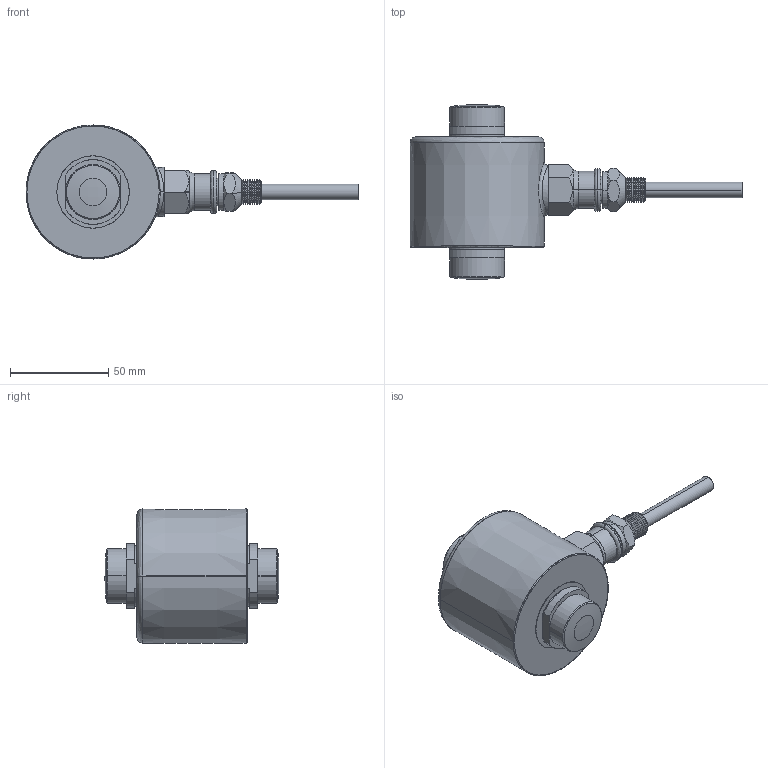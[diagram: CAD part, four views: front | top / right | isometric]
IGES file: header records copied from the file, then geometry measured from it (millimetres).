
Start section: SolidWorks IGES file using analytic representation for surfaces
Global section: file name: C:\0_Work\SolidWorks\0_Load Points\LPRC03 Series\16.5K - 50K\Load Sensor_HIRCH04_16.5KLB-50KLB.IGS; native system: SolidWorks 2020; preprocessor: SolidWorks 2020; author: vach01; date: 220531.090849; units: millimetre
Bounding box: 169.12 x 88.84 x 68.3 mm (x, y, z)
Surface area: 31432.6 mm2 (no closed solid volume)
Topology: 0 solids, 0 shells, 171 faces, 2465 edges, 2465 vertices
Faces by surface type: revolution 114, bspline 57
